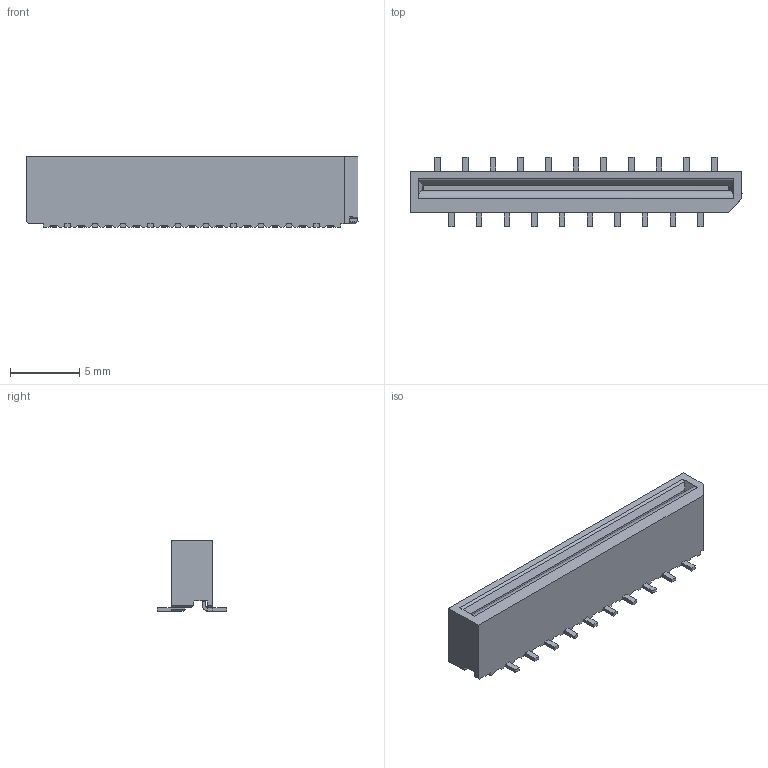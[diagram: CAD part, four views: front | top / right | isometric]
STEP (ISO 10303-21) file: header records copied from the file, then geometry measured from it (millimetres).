
FILE_DESCRIPTION (( 'STEP AP214' ), '1' );
FILE_NAME ('006232121008.STEP', '2023-07-12T07:18:47', ( '' ), ( '' ), 'SwSTEP 2.0', 'SolidWorks 2021', '' );
FILE_SCHEMA (( 'AUTOMOTIVE_DESIGN' ));
Length unit declared in the file: millimetre
Products named in the file (1): 006232121008
Bounding box: 24 x 5 x 5.1 mm (x, y, z)
Volume: 302 mm3; surface area: 653.4 mm2
Topology: 1 solids, 1 shells, 451 faces, 1396 edges, 940 vertices
Faces by surface type: plane 398, cylinder 53
Entity records: 15518 total; most frequent: CARTESIAN_POINT 3064, ORIENTED_EDGE 2792, DIRECTION 2310, EDGE_CURVE 1396, LINE 1202, VECTOR 1202, VERTEX_POINT 940, AXIS2_PLACEMENT_3D 554
